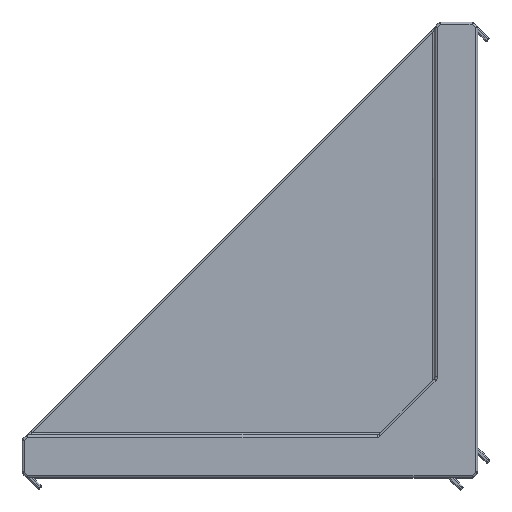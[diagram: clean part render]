
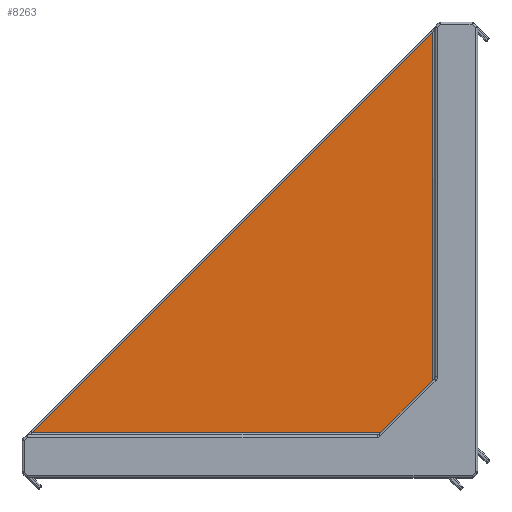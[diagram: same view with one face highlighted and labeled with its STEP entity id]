
A CAD part, top view. The second image highlights one B-rep face of the part: STEP entity #8263.
In plain terms, the highlighted planar face has unit normal (0, 0, 1).
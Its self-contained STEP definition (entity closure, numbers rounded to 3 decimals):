
#259=PLANE('',#8933);
#608=FACE_OUTER_BOUND('',#1198,.T.);
#1198=EDGE_LOOP('',(#5748,#5749,#5750));
#1958=LINE('',#14198,#2544);
#1959=LINE('',#14200,#2545);
#1960=LINE('',#14201,#2546);
#2544=VECTOR('',#10299,1000.);
#2545=VECTOR('',#10300,1000.);
#2546=VECTOR('',#10301,1000.);
#3694=VERTEX_POINT('',#14196);
#3695=VERTEX_POINT('',#14197);
#3696=VERTEX_POINT('',#14199);
#4438=EDGE_CURVE('',#3694,#3695,#1958,.T.);
#4439=EDGE_CURVE('',#3695,#3696,#1959,.T.);
#4440=EDGE_CURVE('',#3696,#3694,#1960,.T.);
#5748=ORIENTED_EDGE('',*,*,#4438,.T.);
#5749=ORIENTED_EDGE('',*,*,#4439,.T.);
#5750=ORIENTED_EDGE('',*,*,#4440,.T.);
#8263=ADVANCED_FACE('',(#608),#259,.F.);
#8933=AXIS2_PLACEMENT_3D('',#14195,#10297,#10298);
#10297=DIRECTION('center_axis',(0.,0.,-1.));
#10298=DIRECTION('ref_axis',(-1.,0.,0.));
#10299=DIRECTION('',(0.,1.,0.));
#10300=DIRECTION('',(-0.707,-0.707,0.));
#10301=DIRECTION('',(1.,0.,0.));
#14195=CARTESIAN_POINT('Origin',(-9.,8.,-40.));
#14196=CARTESIAN_POINT('',(-9.5,8.5,-40.));
#14197=CARTESIAN_POINT('',(-9.5,92.793,-40.));
#14198=CARTESIAN_POINT('',(-9.5,94.,-40.));
#14199=CARTESIAN_POINT('',(-93.793,8.5,-40.));
#14200=CARTESIAN_POINT('',(-51.646,50.646,-40.));
#14201=CARTESIAN_POINT('',(-9.,8.5,-40.));
